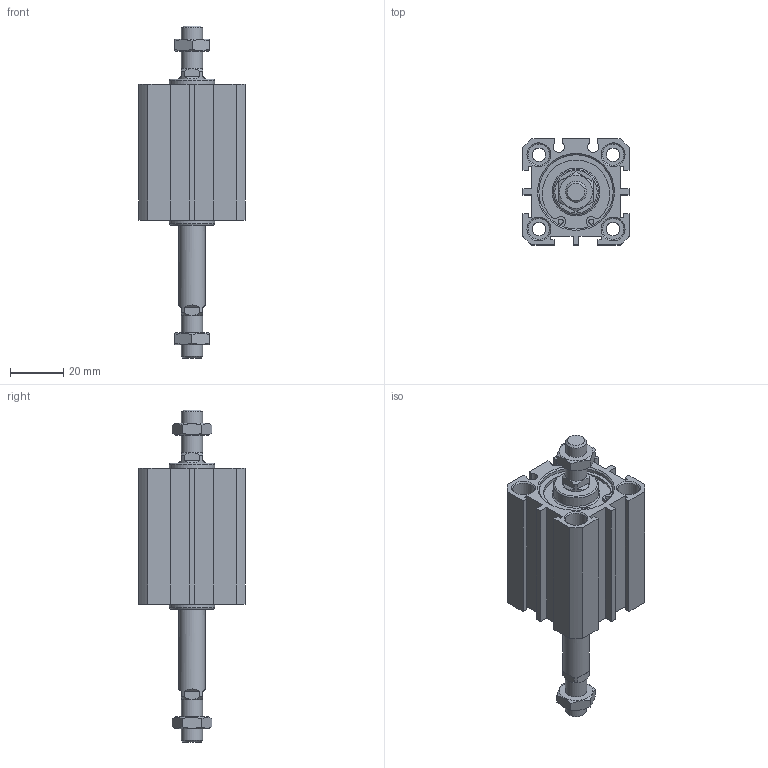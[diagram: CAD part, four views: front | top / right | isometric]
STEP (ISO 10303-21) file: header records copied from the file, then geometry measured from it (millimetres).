
FILE_DESCRIPTION((''),'2;1');
FILE_NAME('I:\3D電子目錄\氣缸\JDD\JDD-B\JDD25-B\JDD25x30-B.stp','2007-02-27T13:54:54',('662F206'),(''),'Autodesk Inventor 10','Autodesk Inventor 10','');
FILE_SCHEMA(('AUTOMOTIVE_DESIGN { 1 0 10303 214 1 1 1 1 }'));
Length unit declared in the file: millimetre
Products named in the file (3): JDD25-B; R 形環 28
Assembly tree (3 placements, depth 2):
  JDD25-B
    JDD25-B
    R 形環 28  x2
Bounding box: 40 x 40 x 125.2 mm (x, y, z)
Volume: 69457.5 mm3; surface area: 23158.1 mm2
Topology: 3 solids, 3 shells, 192 faces, 454 edges, 294 vertices
Faces by surface type: plane 108, cylinder 50, cone 26, bspline 6, torus 2
Full cylindrical faces by diameter (mm): 1.5 x2, 1.9 x4, 5.1 x4, 8 x12, 10 x2, 17 x2, 28 x4, 29.4 x2
Entity records: 4989 total; most frequent: CARTESIAN_POINT 1022, DIRECTION 812, ORIENTED_EDGE 724, EDGE_CURVE 362, AXIS2_PLACEMENT_3D 310, EDGE_LOOP 272, VERTEX_POINT 266, VECTOR 192
